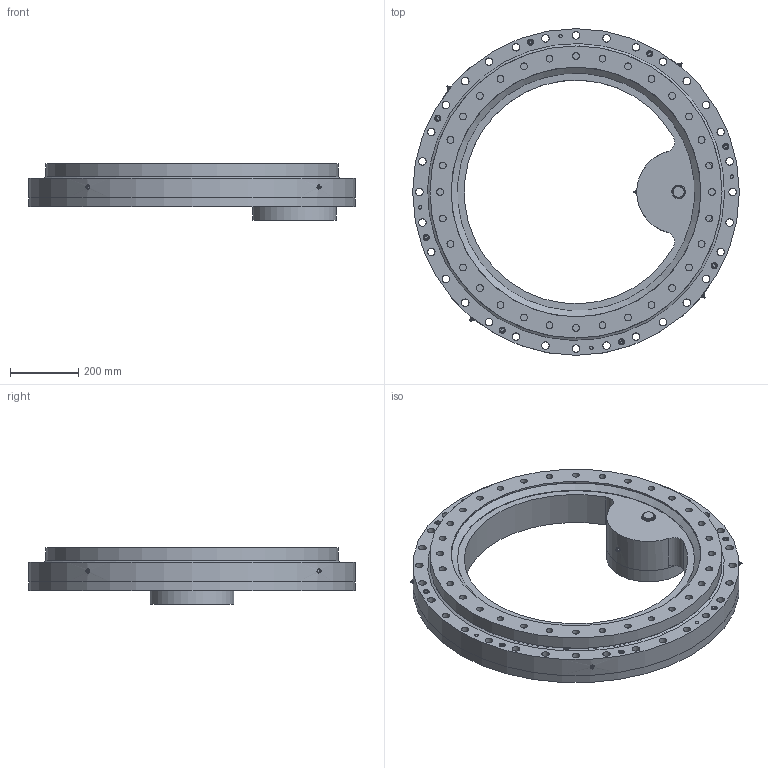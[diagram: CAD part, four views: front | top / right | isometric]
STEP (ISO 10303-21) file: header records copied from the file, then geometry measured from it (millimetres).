
FILE_DESCRIPTION(/* description */ ('STEP AP214'),/* implementation_level */ '2;1');
FILE_NAME(/* name */ '\\Serwer-ad\dnia$\dnia_tomasz_tb\Desktop\Tomcio\1. Cenniki + katalogi + materiały\U- Transmission\Katalogi 2023\Wersja NATECH DRV\Inner gear - slew drive\Our inner gear slew drive STEP\PT-H-0855-I-B-S.stp',/* time_stamp */ '2024-04-30T10:52:54+02:00',/* author */ ('dnia_tomasz_tb'),/* organization */ (''),/* preprocessor_version */ 'ST-DEVELOPER v19',/* originating_system */ 'Autodesk Inventor 2023',/* authorisation */ '');
FILE_SCHEMA (('AUTOMOTIVE_DESIGN { 1 0 10303 214 3 1 1 }'));
Length unit declared in the file: millimetre
Products named in the file (1): PT-H-0855-I-B-S
Bounding box: 955 x 955 x 165 mm (x, y, z)
Surface area: 2135390.9 mm2 (no closed solid volume)
Topology: 0 solids, 60 shells, 399 faces, 1326 edges, 954 vertices
Faces by surface type: plane 189, cylinder 171, torus 22, cone 17
Full cylindrical faces by diameter (mm): 2 x2, 8.5 x8, 10.2 x4, 18 x16, 20 x32, 22 x32, 24 x32, 36 x1, 40 x1, 70 x1, 105 x1, 105.925 x1, 160 x1, 245 x1, 730 x1, 854 x1, 955 x2
Entity records: 16217 total; most frequent: CARTESIAN_POINT 3325, DIRECTION 2775, ORIENTED_EDGE 2042, EDGE_CURVE 1320, AXIS2_PLACEMENT_3D 1065, VERTEX_POINT 954, EDGE_LOOP 678, CIRCLE 665
